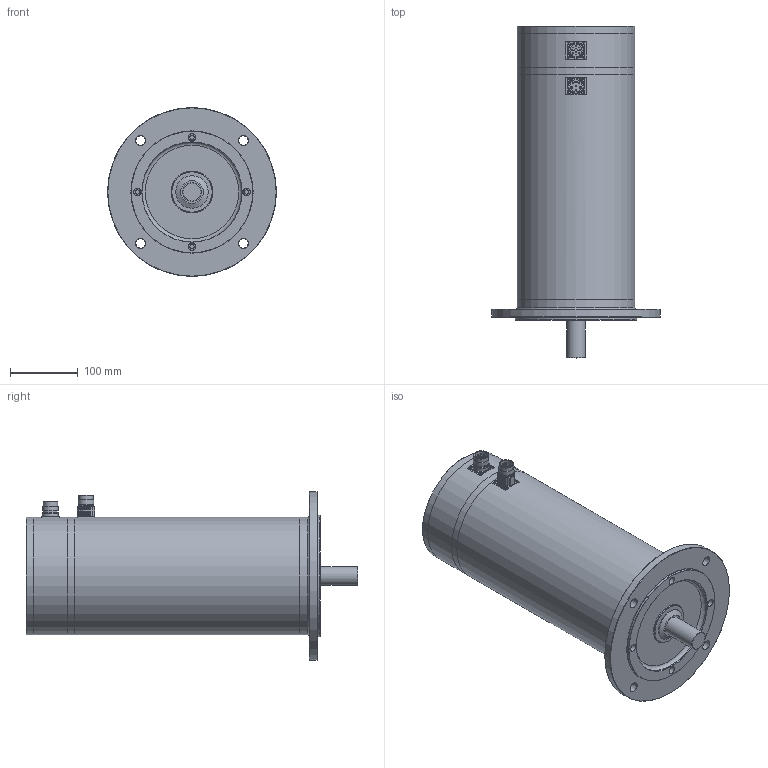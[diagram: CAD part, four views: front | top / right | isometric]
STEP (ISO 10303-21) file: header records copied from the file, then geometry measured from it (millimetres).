
FILE_DESCRIPTION(/* description */ (''),/* implementation_level */ '2;1');
FILE_NAME(/* name */ 'ksa_8x20e_ixx',/* time_stamp */ '2007-03-14T10:24:02+01:00',/* author */ (''),/* organization */ (''),/* preprocessor_version */ 'ST-DEVELOPER v8',/* originating_system */ 'UNIGRAPHICS SOLUTIONS - UNIGRAPHICS 18.0',/* authorisation */ '');
FILE_SCHEMA (('AUTOMOTIVE_DESIGN { 1 2 10303 214 0 1 1 1 }'));
Length unit declared in the file: millimetre
Products named in the file (11): 014261_0; 064305_0; 089286_0; 118030_0; 014260_0; 06331401_0; DIN3760_org_A30x42x7_0; Rotor_SA 84.. E_0; Gehaeuse SA 84.. E_0; 118025_0; KSA8412_E-I27_0
Assembly tree (10 placements, depth 2):
  KSA8412_E-I27_0
    118025_0
    Gehaeuse SA 84.. E_0
    Rotor_SA 84.. E_0
    DIN3760_org_A30x42x7_0
    06331401_0
    014260_0
    118030_0
    089286_0
    064305_0
    014261_0
Bounding box: 250 x 491 x 250 mm (x, y, z)
Volume: 4629413.3 mm3; surface area: 693543.2 mm2
Topology: 10 solids, 10 shells, 293 faces, 720 edges, 457 vertices
Faces by surface type: cylinder 143, plane 77, cone 35, sphere 20, torus 18
Full cylindrical faces by diameter (mm): 1 x16, 2 x4, 2.7 x8, 6.4 x4, 11 x4, 14 x4, 18 x2, 20 x4, 21 x2, 21.5 x2, 23 x4, 24 x1, 27.52 x1, 27.9 x1, 28 x1, 30 x2, 30.3 x1, 38 x1, 39 x1, 42 x2, 48 x1, 56 x1, 60 x1, 62 x1, 140 x1, 148 x1, 150 x1, 151 x2, 174 x5, 180 x1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
Entity records: 7590 total; most frequent: DIRECTION 1424, CARTESIAN_POINT 1185, ORIENTED_EDGE 932, AXIS2_PLACEMENT_3D 655, EDGE_LOOP 522, EDGE_CURVE 466, VERTEX_POINT 382, CIRCLE 351
